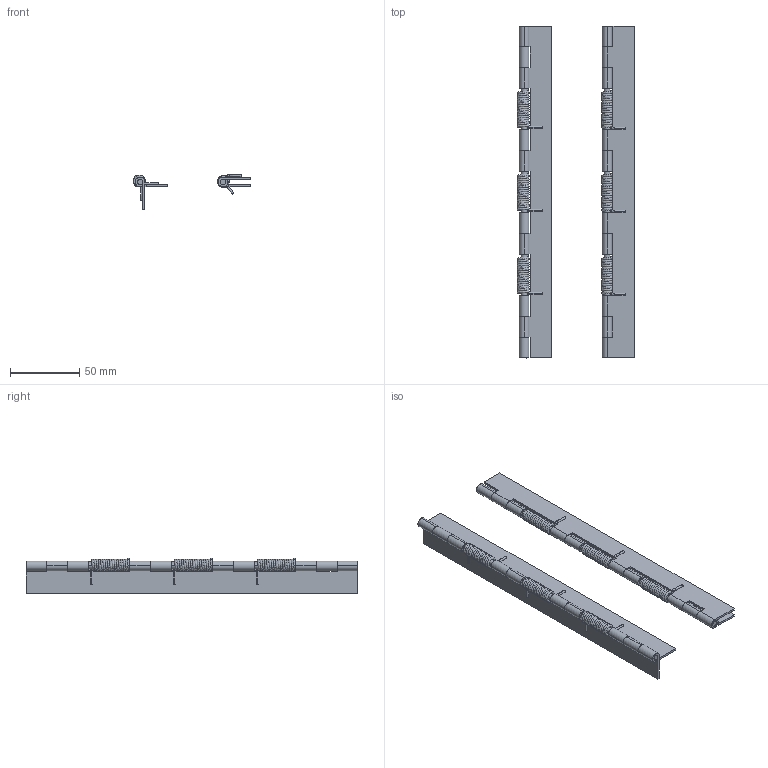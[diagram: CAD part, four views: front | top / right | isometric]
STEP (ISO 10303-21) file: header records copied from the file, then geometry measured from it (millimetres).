
FILE_DESCRIPTION((''),'2;1');
FILE_NAME('6166.stp','2011-04-15T08:47:37',(''),(''),'Mechanical Desktop 2006','Mechanical Desktop 2006',', , ');
FILE_SCHEMA(('CONFIG_CONTROL_DESIGN'));
Length unit declared in the file: millimetre
Products named in the file (2): 6166; DREHFEDERN - 1.600000 X 8.400000 X 15.000000
Assembly tree (3 placements, depth 2):
  6166
    DREHFEDERN - 1.600000 X 8.400000 X 15.000000  x3
Bounding box: 84.99 x 240 x 25.5 mm (x, y, z)
Volume: 44569.6 mm3; surface area: 65786.6 mm2
Topology: 13 solids, 13 shells, 257 faces, 669 edges, 444 vertices
Faces by surface type: plane 114, bspline 113, cylinder 18, torus 12
Entity records: 32771 total; most frequent: CARTESIAN_POINT 27044, ORIENTED_EDGE 1230, DIRECTION 1108, EDGE_CURVE 615, VERTEX_POINT 404, VECTOR 372, LINE 372, AXIS2_PLACEMENT_3D 368
